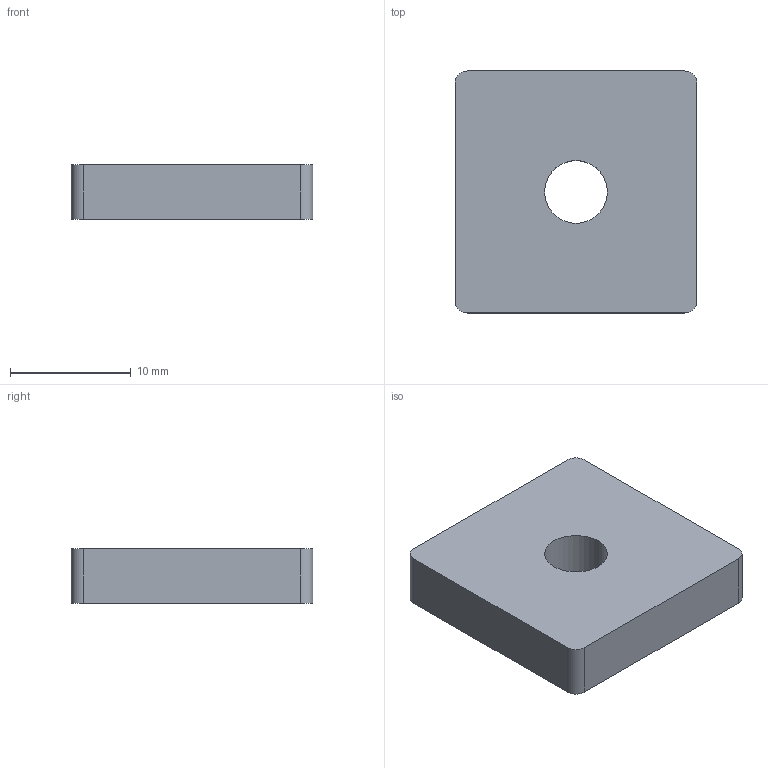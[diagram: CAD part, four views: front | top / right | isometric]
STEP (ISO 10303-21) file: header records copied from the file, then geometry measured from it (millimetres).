
FILE_DESCRIPTION((''),'2;1');
FILE_NAME('FASN-M6','2023-03-03T',('jenni.wallner'),(''),'PRO/ENGINEER BY PARAMETRIC TECHNOLOGY CORPORATION, 2012420','PRO/ENGINEER BY PARAMETRIC TECHNOLOGY CORPORATION, 2012420','');
FILE_SCHEMA(('CONFIG_CONTROL_DESIGN'));
Length unit declared in the file: inch
Products named in the file (1): FASN-M6
Bounding box: 20 x 20 x 4.5 mm (x, y, z)
Volume: 1701.2 mm3; surface area: 1181.6 mm2
Topology: 1 solids, 1 shells, 12 faces, 30 edges, 20 vertices
Faces by surface type: plane 6, cylinder 6
Entity records: 410 total; most frequent: DIRECTION 66, CARTESIAN_POINT 62, ORIENTED_EDGE 60, EDGE_CURVE 30, AXIS2_PLACEMENT_3D 24, VERTEX_POINT 20, VECTOR 18, LINE 18
